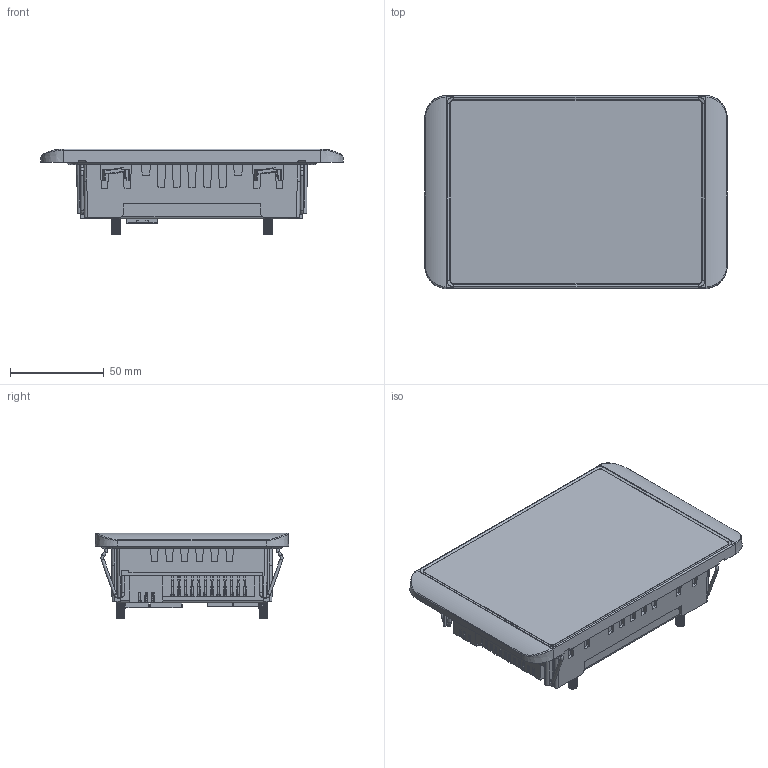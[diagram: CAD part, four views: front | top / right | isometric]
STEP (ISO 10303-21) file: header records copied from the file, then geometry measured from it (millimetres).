
FILE_DESCRIPTION (( 'STEP AP214' ), '1' );
FILE_NAME ('DC2004_Controller_.STEP', '2014-11-14T23:06:16', ( '' ), ( '' ), 'SwSTEP 2.0', 'SolidWorks 2013', '' );
FILE_SCHEMA (( 'AUTOMOTIVE_DESIGN' ));
Length unit declared in the file: millimetre
Products named in the file (1): DC2004_Controller_
Bounding box: 161 x 103 x 45.6 mm (x, y, z)
Volume: 398150.9 mm3; surface area: 71375.9 mm2
Topology: 1 solids, 5 shells, 2757 faces, 7919 edges, 5154 vertices
Faces by surface type: plane 1722, cylinder 431, bspline 280, cone 249, torus 59, sphere 16
Full cylindrical faces by diameter (mm): 1.567 x4, 1.6 x14, 1.8 x8, 2 x1, 3.6 x1, 6 x1, 6.6 x1
Entity records: 106601 total; most frequent: CARTESIAN_POINT 38500, ORIENTED_EDGE 15640, DIRECTION 12146, EDGE_CURVE 7820, VERTEX_POINT 5124, VECTOR 5038, LINE 5038, AXIS2_PLACEMENT_3D 3554
